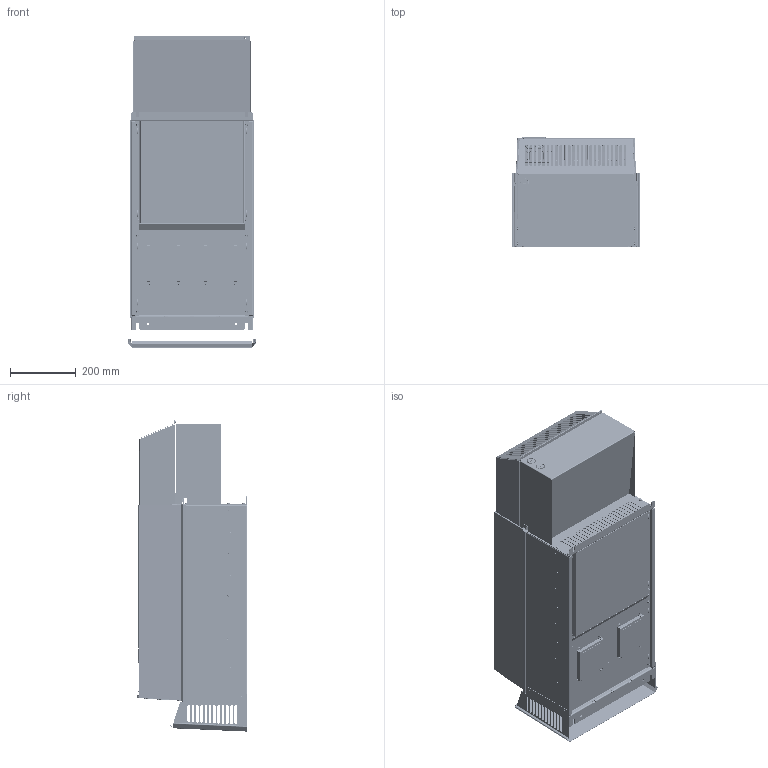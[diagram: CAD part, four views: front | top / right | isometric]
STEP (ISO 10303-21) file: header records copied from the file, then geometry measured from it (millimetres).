
FILE_DESCRIPTION((''),'2;1');
FILE_NAME('H8_IP21_ASM','2012-11-20T',('u248893'),('Danfoss Power Electronics'),'PRO/ENGINEER BY PARAMETRIC TECHNOLOGY CORPORATION, 2011490','PRO/ENGINEER BY PARAMETRIC TECHNOLOGY CORPORATION, 2011490','');
FILE_SCHEMA(('CONFIG_CONTROL_DESIGN', 'GEOMETRIC_VALIDATION_PROPERTIES_MIM'));
Products named in the file (5): DANFOSS-FC101-H8-IP20; 130B4466; 130B4370; 130B4468; H8_IP21_ASM
Assembly tree (4 placements, depth 2):
  H8_IP21_ASM
    DANFOSS-FC101-H8-IP20
    130B4466
    130B4370
    130B4468
Bounding box: 390 x 335.67 x 943.89 mm (x, y, z)
Volume: 71327142.4 mm3; surface area: 2462169.6 mm2
Topology: 4 solids, 31 shells, 5650 faces, 15477 edges, 10021 vertices
Faces by surface type: plane 2492, cylinder 1921, cone 382, torus 337, bspline 295, extrusion 132, sphere 91
Entity records: 217133 total; most frequent: CARTESIAN_POINT 65397, ORIENTED_EDGE 30718, DIRECTION 27566, EDGE_CURVE 15359, VERTEX_POINT 10019, AXIS2_PLACEMENT_3D 9723, VECTOR 8120, LINE 7988
